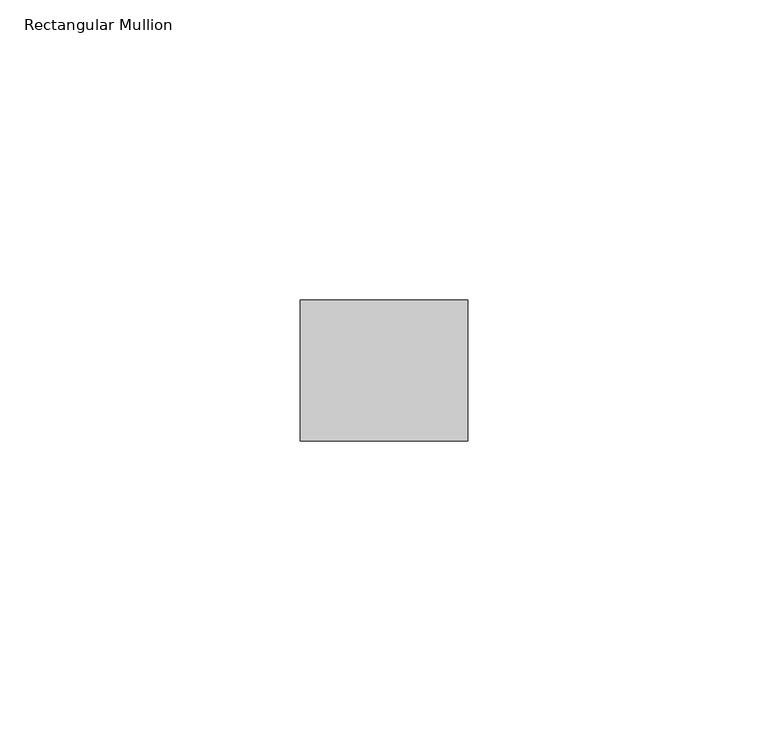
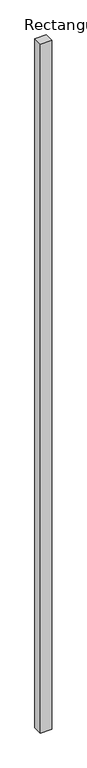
"""IFC4 building model written with IfcOpenShell, lengths in millimetres: member geometry, Rectangular Mullion : Lite Scale Glasing - Base Trim."""

from ifc_helpers import new_model, si_unit, frame, origin, place, context, project, spatial, polyline, outline, extrude, source, transform, mapped, element, save


def rectangular_mullion_766c7d85(model_context):
    return source(origin(), model_context, "Body", "SweptSolid", [
        extrude(outline(polyline([(0.0, -11.7474999), (-27.94, -11.7474999), (-27.94, 11.7474999), (0.0, 11.7474999), (0.0, -11.7474999)])), frame((0.0, 0.0, -1803.4), z_axis=(0.0, 0.0, 1.0), x_axis=(1.0, 0.0, 0.0)), (0.0, 0.0, 1.0), 1803.4),
    ])


if __name__ == "__main__":
    model = new_model("IFC4")
    model_context = context("Model", 3, world=origin())
    ifc_project = project(units=[si_unit("LENGTHUNIT", "METRE", prefix="MILLI")], contexts=[model_context])
    site = spatial("IfcSite", under=ifc_project)
    building = spatial("IfcBuilding", under=site)
    placement = place(None, origin())
    rectangular_mullion_shape = rectangular_mullion_766c7d85(model_context)
    element("IfcMember", 1, ObjectType="Rectangular Mullion : Lite Scale Glasing - Base Trim", at=placement, inside=building, context=model_context, shape_type="MappedRepresentation", body=[
        mapped(rectangular_mullion_shape, transform((0.0, 0.0, 0.0), x_axis=(1.0, 0.0, 0.0), y_axis=(0.0, 1.0, 0.0), z_axis=(0.0, 0.0, 1.0))),
    ])
    save(model, "model.ifc")
